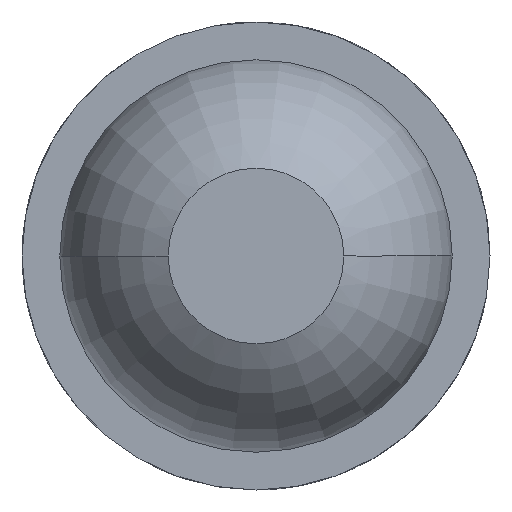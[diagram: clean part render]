
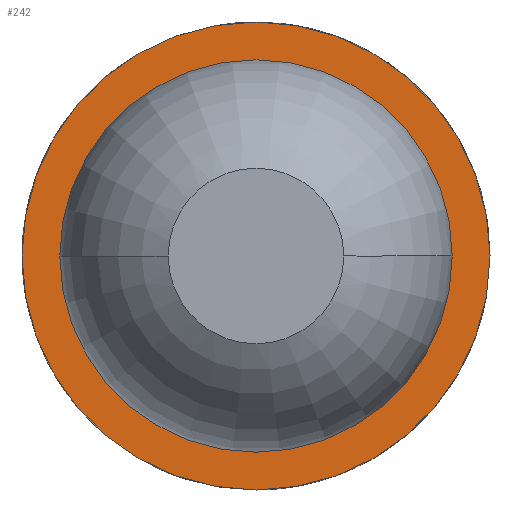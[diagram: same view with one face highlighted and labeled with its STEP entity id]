
A CAD part, left-side view. The second image highlights one B-rep face of the part: STEP entity #242.
In plain terms, the highlighted planar face has unit normal (-1, 0, 0).
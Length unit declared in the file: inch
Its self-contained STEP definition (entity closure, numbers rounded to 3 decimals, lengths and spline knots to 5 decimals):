
#10 = CARTESIAN_POINT ( 'NONE',  ( 1.23, 0., 0. ) ) ;
#19 = CIRCLE ( 'NONE', #166, 0.0155 ) ;
#24 = CARTESIAN_POINT ( 'NONE',  ( 1.23, 0., 0.024 ) ) ;
#35 = DIRECTION ( 'NONE',  ( 0., 0., -1. ) ) ;
#68 = FACE_BOUND ( 'NONE', #470, .T. ) ;
#108 = CIRCLE ( 'NONE', #883, 0.0155 ) ;
#117 = ORIENTED_EDGE ( 'NONE', *, *, #766, .T. ) ;
#121 = CIRCLE ( 'NONE', #901, 0.024 ) ;
#140 = DIRECTION ( 'NONE',  ( 1., 0., 0. ) ) ;
#163 = VERTEX_POINT ( 'NONE', #24 ) ;
#166 = AXIS2_PLACEMENT_3D ( 'NONE', #854, #933, #709 ) ;
#207 = DIRECTION ( 'NONE',  ( 0., 0., -1. ) ) ;
#236 = VERTEX_POINT ( 'NONE', #830 ) ;
#242 = ADVANCED_FACE ( 'NONE', ( #68, #825 ), #518, .F. ) ;
#292 = CIRCLE ( 'NONE', #356, 0.024 ) ;
#301 = CARTESIAN_POINT ( 'NONE',  ( 1.23, 0., -0.0155 ) ) ;
#336 = EDGE_CURVE ( 'NONE', #236, #163, #292, .T. ) ;
#356 = AXIS2_PLACEMENT_3D ( 'NONE', #546, #712, #35 ) ;
#362 = CARTESIAN_POINT ( 'NONE',  ( 1.23, 0., 0.0155 ) ) ;
#378 = ORIENTED_EDGE ( 'NONE', *, *, #336, .F. ) ;
#411 = EDGE_LOOP ( 'NONE', ( #378, #931 ) ) ;
#470 = EDGE_LOOP ( 'NONE', ( #117, #653 ) ) ;
#516 = DIRECTION ( 'NONE',  ( 1., 0., 0. ) ) ;
#518 = PLANE ( 'NONE',  #554 ) ;
#546 = CARTESIAN_POINT ( 'NONE',  ( 1.23, 0., 0. ) ) ;
#554 = AXIS2_PLACEMENT_3D ( 'NONE', #10, #140, #839 ) ;
#562 = EDGE_CURVE ( 'NONE', #857, #927, #108, .T. ) ;
#566 = EDGE_CURVE ( 'NONE', #163, #236, #121, .T. ) ;
#653 = ORIENTED_EDGE ( 'NONE', *, *, #562, .T. ) ;
#673 = CARTESIAN_POINT ( 'NONE',  ( 1.23, 0., 0. ) ) ;
#709 = DIRECTION ( 'NONE',  ( 0., 0., -1. ) ) ;
#712 = DIRECTION ( 'NONE',  ( 1., 0., 0. ) ) ;
#750 = DIRECTION ( 'NONE',  ( 0., 0., -1. ) ) ;
#766 = EDGE_CURVE ( 'NONE', #927, #857, #19, .T. ) ;
#825 = FACE_OUTER_BOUND ( 'NONE', #411, .T. ) ;
#830 = CARTESIAN_POINT ( 'NONE',  ( 1.23, 0., -0.024 ) ) ;
#839 = DIRECTION ( 'NONE',  ( 0., 0., -1. ) ) ;
#854 = CARTESIAN_POINT ( 'NONE',  ( 1.23, 0., 0. ) ) ;
#857 = VERTEX_POINT ( 'NONE', #362 ) ;
#883 = AXIS2_PLACEMENT_3D ( 'NONE', #673, #905, #750 ) ;
#901 = AXIS2_PLACEMENT_3D ( 'NONE', #975, #516, #207 ) ;
#905 = DIRECTION ( 'NONE',  ( 1., 0., 0. ) ) ;
#927 = VERTEX_POINT ( 'NONE', #301 ) ;
#931 = ORIENTED_EDGE ( 'NONE', *, *, #566, .F. ) ;
#933 = DIRECTION ( 'NONE',  ( 1., 0., 0. ) ) ;
#975 = CARTESIAN_POINT ( 'NONE',  ( 1.23, 0., 0. ) ) ;
